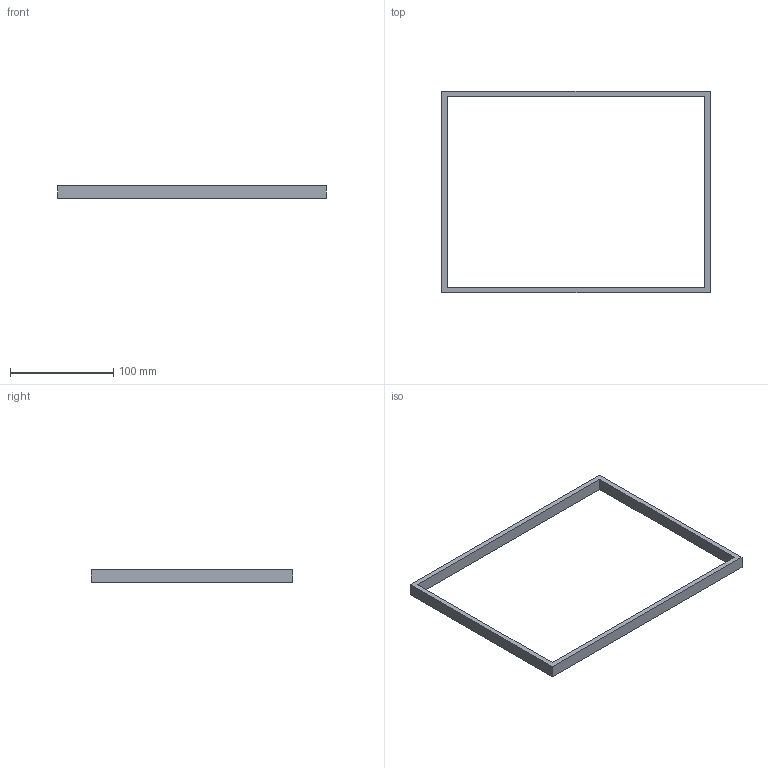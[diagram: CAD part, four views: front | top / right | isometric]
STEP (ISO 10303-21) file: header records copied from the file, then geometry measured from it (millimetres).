
FILE_DESCRIPTION(('Open CASCADE Model'),'2;1');
FILE_NAME('Open CASCADE Shape Model','2026-02-11T21:32:42',('Author'),( 'Open CASCADE'),'Open CASCADE STEP processor 7.8','Open CASCADE 7.8' ,'Unknown');
FILE_SCHEMA(('AUTOMOTIVE_DESIGN { 1 0 10303 214 1 1 1 1 }'));
Length unit declared in the file: millimetre
Products named in the file (1): Open CASCADE STEP translator 7.8 3
Bounding box: 260 x 195 x 12 mm (x, y, z)
Volume: 53400 mm3; surface area: 30260 mm2
Topology: 1 solids, 1 shells, 10 faces, 24 edges, 16 vertices
Faces by surface type: plane 10
Entity records: 614 total; most frequent: CARTESIAN_POINT 99, DIRECTION 94, LINE 72, VECTOR 72, ORIENTED_EDGE 48, PCURVE 48, DEFINITIONAL_REPRESENTATION 48, EDGE_CURVE 24
